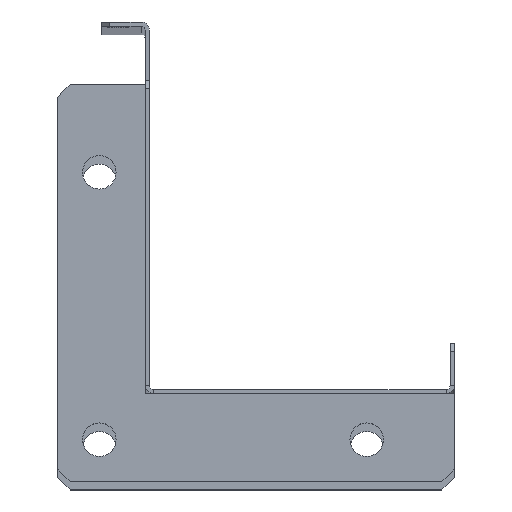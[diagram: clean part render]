
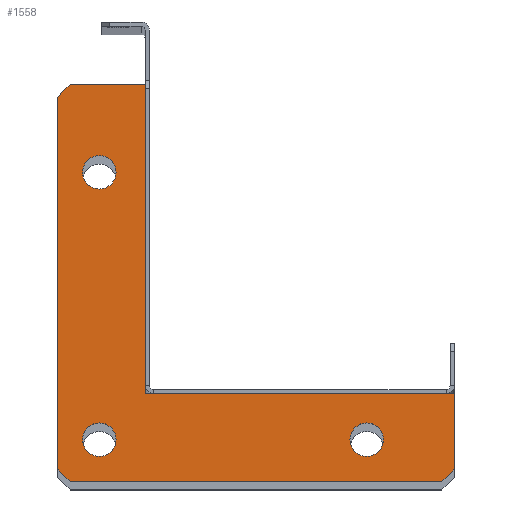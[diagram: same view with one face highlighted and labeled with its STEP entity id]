
A CAD part, top view. The second image highlights one B-rep face of the part: STEP entity #1558.
In plain terms, the highlighted planar face has unit normal (0, 0, 1).
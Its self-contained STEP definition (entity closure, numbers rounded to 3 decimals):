
#4 = LINE ( 'NONE', #1128, #1878 ) ;
#47 = EDGE_LOOP ( 'NONE', ( #1238, #2225 ) ) ;
#58 = VECTOR ( 'NONE', #579, 1000. ) ;
#66 = FACE_BOUND ( 'NONE', #1645, .T. ) ;
#79 = ORIENTED_EDGE ( 'NONE', *, *, #1172, .F. ) ;
#129 = EDGE_CURVE ( 'NONE', #1531, #1236, #1337, .T. ) ;
#173 = ORIENTED_EDGE ( 'NONE', *, *, #1384, .F. ) ;
#191 = DIRECTION ( 'NONE',  ( 1., 0., 0. ) ) ;
#193 = CARTESIAN_POINT ( 'NONE',  ( 71., -21., 585. ) ) ;
#195 = VERTEX_POINT ( 'NONE', #1010 ) ;
#199 = ORIENTED_EDGE ( 'NONE', *, *, #1812, .F. ) ;
#214 = CARTESIAN_POINT ( 'NONE',  ( 49., -11., 585. ) ) ;
#215 = LINE ( 'NONE', #2247, #1553 ) ;
#216 = VECTOR ( 'NONE', #1251, 1000. ) ;
#231 = DIRECTION ( 'NONE',  ( 1., 0., 0. ) ) ;
#232 = CARTESIAN_POINT ( 'NONE',  ( 74., -18., 585. ) ) ;
#271 = EDGE_CURVE ( 'NONE', #1266, #2349, #1369, .T. ) ;
#281 = AXIS2_PLACEMENT_3D ( 'NONE', #657, #1930, #1709 ) ;
#296 = CARTESIAN_POINT ( 'NONE',  ( -11., 53., 585. ) ) ;
#310 = EDGE_CURVE ( 'NONE', #1894, #755, #359, .T. ) ;
#314 = LINE ( 'NONE', #327, #1102 ) ;
#327 = CARTESIAN_POINT ( 'NONE',  ( 0., 74., 585. ) ) ;
#338 = VERTEX_POINT ( 'NONE', #1426 ) ;
#359 = LINE ( 'NONE', #1282, #1697 ) ;
#374 = ORIENTED_EDGE ( 'NONE', *, *, #2239, .F. ) ;
#379 = DIRECTION ( 'NONE',  ( 0., 0., 1. ) ) ;
#395 = CARTESIAN_POINT ( 'NONE',  ( -21., 71., 585. ) ) ;
#403 = AXIS2_PLACEMENT_3D ( 'NONE', #1491, #379, #191 ) ;
#421 = CARTESIAN_POINT ( 'NONE',  ( 0., 0., 585. ) ) ;
#433 = DIRECTION ( 'NONE',  ( 0., 1., 0. ) ) ;
#541 = CARTESIAN_POINT ( 'NONE',  ( -11., 53., 585. ) ) ;
#562 = ORIENTED_EDGE ( 'NONE', *, *, #585, .T. ) ;
#568 = AXIS2_PLACEMENT_3D ( 'NONE', #2351, #702, #1225 ) ;
#573 = ORIENTED_EDGE ( 'NONE', *, *, #709, .T. ) ;
#579 = DIRECTION ( 'NONE',  ( -1., 0., 0. ) ) ;
#585 = EDGE_CURVE ( 'NONE', #1980, #1724, #891, .T. ) ;
#591 = DIRECTION ( 'NONE',  ( 1., 0., 0. ) ) ;
#630 = VERTEX_POINT ( 'NONE', #1787 ) ;
#640 = CARTESIAN_POINT ( 'NONE',  ( -18., 74., 585. ) ) ;
#657 = CARTESIAN_POINT ( 'NONE',  ( 53., -11., 585. ) ) ;
#677 = CARTESIAN_POINT ( 'NONE',  ( -18., -21., 585. ) ) ;
#702 = DIRECTION ( 'NONE',  ( 0., 0., 1. ) ) ;
#708 = CARTESIAN_POINT ( 'NONE',  ( -15., -11., 585. ) ) ;
#709 = EDGE_CURVE ( 'NONE', #195, #1894, #314, .T. ) ;
#727 = DIRECTION ( 'NONE',  ( 1., 0., 0. ) ) ;
#755 = VERTEX_POINT ( 'NONE', #395 ) ;
#772 = DIRECTION ( 'NONE',  ( 0.707, 0.707, 0. ) ) ;
#794 = VERTEX_POINT ( 'NONE', #1319 ) ;
#822 = VERTEX_POINT ( 'NONE', #214 ) ;
#838 = CARTESIAN_POINT ( 'NONE',  ( 57., -11., 585. ) ) ;
#856 = LINE ( 'NONE', #1036, #882 ) ;
#878 = DIRECTION ( 'NONE',  ( 1., 0., 0. ) ) ;
#882 = VECTOR ( 'NONE', #878, 1000. ) ;
#891 = LINE ( 'NONE', #1610, #216 ) ;
#906 = CARTESIAN_POINT ( 'NONE',  ( 74., 0., 585. ) ) ;
#913 = ORIENTED_EDGE ( 'NONE', *, *, #1409, .T. ) ;
#925 = DIRECTION ( 'NONE',  ( -1., 0., 0. ) ) ;
#926 = EDGE_LOOP ( 'NONE', ( #1688, #573, #1436, #913, #562, #2021, #1074, #984, #1845 ) ) ;
#966 = EDGE_CURVE ( 'NONE', #338, #1531, #1113, .T. ) ;
#984 = ORIENTED_EDGE ( 'NONE', *, *, #129, .T. ) ;
#993 = EDGE_CURVE ( 'NONE', #1452, #195, #215, .T. ) ;
#1010 = CARTESIAN_POINT ( 'NONE',  ( 0., 74., 585. ) ) ;
#1036 = CARTESIAN_POINT ( 'NONE',  ( -18., -21., 585. ) ) ;
#1047 = EDGE_LOOP ( 'NONE', ( #199, #374 ) ) ;
#1074 = ORIENTED_EDGE ( 'NONE', *, *, #966, .T. ) ;
#1090 = CARTESIAN_POINT ( 'NONE',  ( -11., -11., 585. ) ) ;
#1102 = VECTOR ( 'NONE', #925, 1000. ) ;
#1113 = LINE ( 'NONE', #193, #1871 ) ;
#1128 = CARTESIAN_POINT ( 'NONE',  ( -21., 71., 585. ) ) ;
#1172 = EDGE_CURVE ( 'NONE', #822, #2381, #2095, .T. ) ;
#1174 = CARTESIAN_POINT ( 'NONE',  ( 74., -18., 585. ) ) ;
#1225 = DIRECTION ( 'NONE',  ( 1., 0., 0. ) ) ;
#1232 = DIRECTION ( 'NONE',  ( 1., 0., 0. ) ) ;
#1236 = VERTEX_POINT ( 'NONE', #906 ) ;
#1238 = ORIENTED_EDGE ( 'NONE', *, *, #1626, .F. ) ;
#1251 = DIRECTION ( 'NONE',  ( 0.707, -0.707, 0. ) ) ;
#1266 = VERTEX_POINT ( 'NONE', #708 ) ;
#1282 = CARTESIAN_POINT ( 'NONE',  ( -18., 74., 585. ) ) ;
#1298 = AXIS2_PLACEMENT_3D ( 'NONE', #421, #1925, #231 ) ;
#1319 = CARTESIAN_POINT ( 'NONE',  ( -7., 53., 585. ) ) ;
#1335 = FACE_BOUND ( 'NONE', #47, .T. ) ;
#1337 = LINE ( 'NONE', #232, #1359 ) ;
#1359 = VECTOR ( 'NONE', #433, 1000. ) ;
#1369 = CIRCLE ( 'NONE', #2307, 4. ) ;
#1384 = EDGE_CURVE ( 'NONE', #2381, #822, #1567, .T. ) ;
#1409 = EDGE_CURVE ( 'NONE', #755, #1980, #4, .T. ) ;
#1426 = CARTESIAN_POINT ( 'NONE',  ( 71., -21., 585. ) ) ;
#1436 = ORIENTED_EDGE ( 'NONE', *, *, #310, .T. ) ;
#1452 = VERTEX_POINT ( 'NONE', #2384 ) ;
#1491 = CARTESIAN_POINT ( 'NONE',  ( 53., -11., 585. ) ) ;
#1530 = LINE ( 'NONE', #2075, #58 ) ;
#1531 = VERTEX_POINT ( 'NONE', #1174 ) ;
#1553 = VECTOR ( 'NONE', #1650, 1000. ) ;
#1558 = ADVANCED_FACE ( 'NONE', ( #1716, #1335, #66, #1900 ), #2078, .T. ) ;
#1567 = CIRCLE ( 'NONE', #403, 4. ) ;
#1605 = CIRCLE ( 'NONE', #568, 4. ) ;
#1610 = CARTESIAN_POINT ( 'NONE',  ( -21., -18., 585. ) ) ;
#1626 = EDGE_CURVE ( 'NONE', #2349, #1266, #1605, .T. ) ;
#1627 = DIRECTION ( 'NONE',  ( -0.707, -0.707, 0. ) ) ;
#1631 = EDGE_CURVE ( 'NONE', #1724, #338, #856, .T. ) ;
#1645 = EDGE_LOOP ( 'NONE', ( #173, #79 ) ) ;
#1648 = DIRECTION ( 'NONE',  ( 0., -1., 0. ) ) ;
#1650 = DIRECTION ( 'NONE',  ( 0., 1., 0. ) ) ;
#1688 = ORIENTED_EDGE ( 'NONE', *, *, #993, .T. ) ;
#1697 = VECTOR ( 'NONE', #1627, 1000. ) ;
#1709 = DIRECTION ( 'NONE',  ( 1., 0., 0. ) ) ;
#1716 = FACE_BOUND ( 'NONE', #1047, .T. ) ;
#1724 = VERTEX_POINT ( 'NONE', #677 ) ;
#1747 = DIRECTION ( 'NONE',  ( 0., 0., 1. ) ) ;
#1767 = CARTESIAN_POINT ( 'NONE',  ( -7., -11., 585. ) ) ;
#1787 = CARTESIAN_POINT ( 'NONE',  ( -15., 53., 585. ) ) ;
#1812 = EDGE_CURVE ( 'NONE', #794, #630, #1932, .T. ) ;
#1845 = ORIENTED_EDGE ( 'NONE', *, *, #2236, .T. ) ;
#1871 = VECTOR ( 'NONE', #772, 1000. ) ;
#1878 = VECTOR ( 'NONE', #1648, 1000. ) ;
#1894 = VERTEX_POINT ( 'NONE', #640 ) ;
#1897 = DIRECTION ( 'NONE',  ( 0., 0., 1. ) ) ;
#1900 = FACE_OUTER_BOUND ( 'NONE', #926, .T. ) ;
#1925 = DIRECTION ( 'NONE',  ( 0., 0., 1. ) ) ;
#1930 = DIRECTION ( 'NONE',  ( 0., 0., 1. ) ) ;
#1932 = CIRCLE ( 'NONE', #2283, 4. ) ;
#1980 = VERTEX_POINT ( 'NONE', #2306 ) ;
#2021 = ORIENTED_EDGE ( 'NONE', *, *, #1631, .T. ) ;
#2075 = CARTESIAN_POINT ( 'NONE',  ( 0., 0., 585. ) ) ;
#2078 = PLANE ( 'NONE',  #1298 ) ;
#2095 = CIRCLE ( 'NONE', #281, 4. ) ;
#2104 = CIRCLE ( 'NONE', #2220, 4. ) ;
#2220 = AXIS2_PLACEMENT_3D ( 'NONE', #541, #1897, #591 ) ;
#2225 = ORIENTED_EDGE ( 'NONE', *, *, #271, .F. ) ;
#2236 = EDGE_CURVE ( 'NONE', #1236, #1452, #1530, .T. ) ;
#2239 = EDGE_CURVE ( 'NONE', #630, #794, #2104, .T. ) ;
#2247 = CARTESIAN_POINT ( 'NONE',  ( 0., 74., 585. ) ) ;
#2283 = AXIS2_PLACEMENT_3D ( 'NONE', #296, #1747, #1232 ) ;
#2303 = DIRECTION ( 'NONE',  ( 0., 0., 1. ) ) ;
#2306 = CARTESIAN_POINT ( 'NONE',  ( -21., -18., 585. ) ) ;
#2307 = AXIS2_PLACEMENT_3D ( 'NONE', #1090, #2303, #727 ) ;
#2349 = VERTEX_POINT ( 'NONE', #1767 ) ;
#2351 = CARTESIAN_POINT ( 'NONE',  ( -11., -11., 585. ) ) ;
#2381 = VERTEX_POINT ( 'NONE', #838 ) ;
#2384 = CARTESIAN_POINT ( 'NONE',  ( 0., 0., 585. ) ) ;
